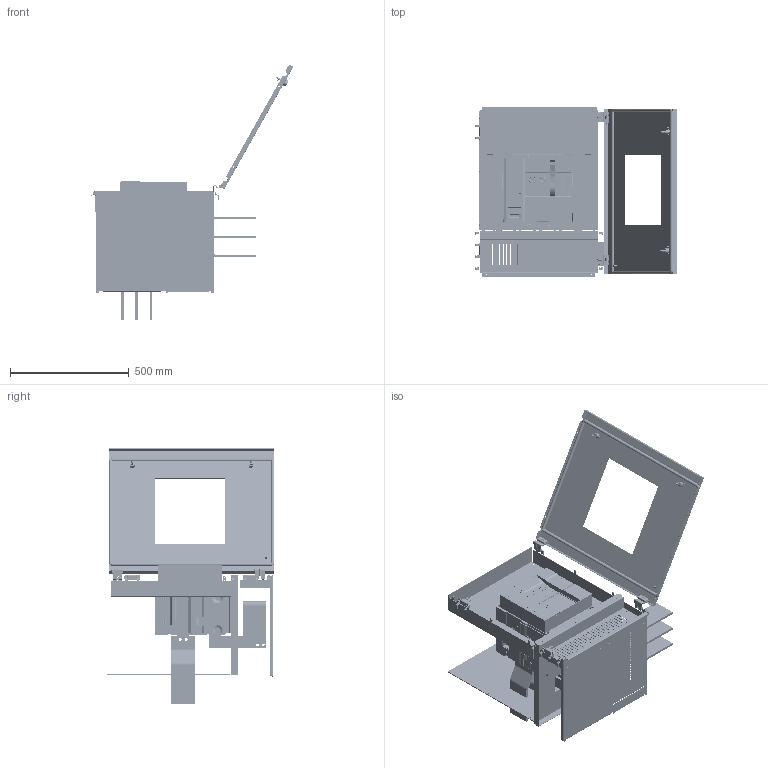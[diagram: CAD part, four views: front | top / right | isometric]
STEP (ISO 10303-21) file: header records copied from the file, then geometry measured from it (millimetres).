
FILE_DESCRIPTION(('CAx-IF Rec.Pracs.---Model Styling and Organization---1.2---2011-12-15','CAx-IF Rec.Pracs.---Geometric and Assembly Validation Properties---4.1---2014-06-16','CAx-IF Rec.Pracs.---PMI Polyline Presentation---2.0---2013-05-24'),'2;1');
FILE_NAME('R5M214IB4H61121S (one-side).stp','2021-05-05T12:48:38+03:00',(''),(''),'STEP Interface 4.4 by CT CoreTechnologie','3D_Evolution4.4 by CT CoreTechnologie','');
FILE_SCHEMA(('AUTOMOTIVE_DESIGN { 1 0 10303 214 1 1 1 1 }'));
Length unit declared in the file: millimetre
Products named in the file (34): R5M214IB4H61121S(îäíîñòîðîííèé); RB.1441.00.00.0_-00; M6 x 16-DIN 7991 ISR_thread; AC00C485; RB.1442.00.00.0_-01; RB.1440.00.00.0_-00; AC00C745; RB.1443.00.00.0 ÑÁ_-00 (LS F); RB.1443.00.01.0_-00 (LS F); PF 7x14 MCC2.0_0700x0600; AC00C266; AC00C061_AC00C061; Ì6õ12-A5100231_straight; RB.0116.00.00.2_-00; LSO2_-00; LSO1_-00; RB.1233.00.00.0_-01; LSDS1F_-00; RB.1596.00.00.0_-00 (LS F); LSDS2F_-00; RB.1226.00.00.0_-00; LSDS3F_-00; RB.1227.00.00.0_-00; MS737-1-1(1); MS737-1-1 Z_ ªàëâ; MS737-1-1 stop_fixed; 2000AF(630-1600) F 3P_-00; MS737-1-1(2); LST2F_-00; LST3F_-00; LST1F_-00; RB.0687.00.00.1_-00; RB.1442.00.00.0_-00; RB.1227.00.00.0_-01
Assembly tree (66 placements, depth 3):
  R5M214IB4H61121S(îäíîñòîðîííèé)
    RB.1441.00.00.0_-00
    M6 x 16-DIN 7991 ISR_thread  x12
    AC00C485  x12
    RB.1442.00.00.0_-01
    RB.1440.00.00.0_-00  x2
    AC00C745  x2
    RB.1443.00.00.0 ÑÁ_-00 (LS F)
      RB.1443.00.01.0_-00 (LS F)
      PF 7x14 MCC2.0_0700x0600
      AC00C266  x2
      AC00C061_AC00C061
      Ì6õ12-A5100231_straight
    RB.0116.00.00.2_-00  x2
    LSO2_-00  x3
    LSO1_-00  x3
    RB.1233.00.00.0_-01
    LSDS1F_-00
    RB.1596.00.00.0_-00 (LS F)
    LSDS2F_-00
    RB.1226.00.00.0_-00
    LSDS3F_-00
    RB.1227.00.00.0_-00
    MS737-1-1(1)
      MS737-1-1 Z_ ªàëâ
      MS737-1-1 stop_fixed
    2000AF(630-1600) F 3P_-00
    MS737-1-1(2)
      MS737-1-1 Z_ ªàëâ
      MS737-1-1 stop_fixed
    LST2F_-00
    LST3F_-00
    LST1F_-00
    RB.0687.00.00.1_-00  x2
    RB.1442.00.00.0_-00
    RB.1227.00.00.0_-01
Bounding box: 850.72 x 717 x 1073.39 mm (x, y, z)
Surface area: 5840098.9 mm2 (no closed solid volume)
Topology: 0 solids, 127 shells, 7196 faces, 22761 edges, 15169 vertices
Faces by surface type: plane 4173, cylinder 2433, bspline 590
Entity records: 219017 total; most frequent: CARTESIAN_POINT 50583, ORIENTED_EDGE 34075, DIRECTION 33796, EDGE_CURVE 18966, VECTOR 13878, LINE 13878, VERTEX_POINT 12862, AXIS2_PLACEMENT_3D 9959
